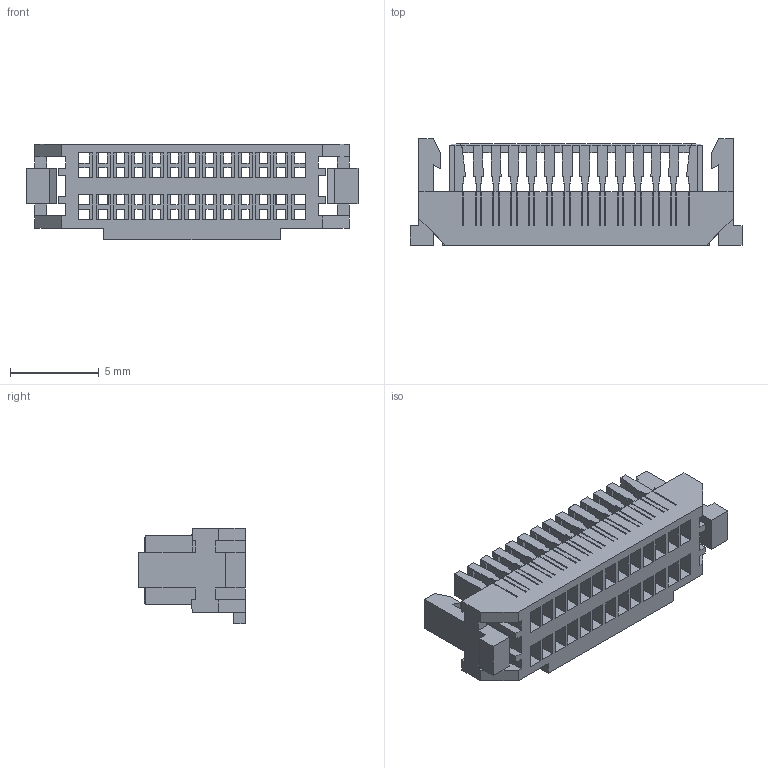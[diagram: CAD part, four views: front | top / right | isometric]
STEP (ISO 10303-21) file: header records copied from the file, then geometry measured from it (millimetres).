
FILE_DESCRIPTION (( 'STEP AP203' ), '1' );
FILE_NAME ('HC-SHC1.0-2x13Y.STEP', '2024-05-16T09:30:11', ( '' ), ( '' ), 'SwSTEP 2.0', 'SolidWorks 2022', '' );
FILE_SCHEMA (( 'CONFIG_CONTROL_DESIGN' ));
Length unit declared in the file: millimetre
Products named in the file (1): HC-SHC1.0-2x13Y
Bounding box: 18.7 x 6 x 5.4 mm (x, y, z)
Volume: 196.1 mm3; surface area: 1139.2 mm2
Topology: 1 solids, 1 shells, 1072 faces, 3276 edges, 2124 vertices
Faces by surface type: plane 992, bspline 64, cylinder 16
Entity records: 36291 total; most frequent: CARTESIAN_POINT 7339, ORIENTED_EDGE 6552, DIRECTION 5172, EDGE_CURVE 3276, VECTOR 3090, LINE 3090, VERTEX_POINT 2124, EDGE_LOOP 1098
